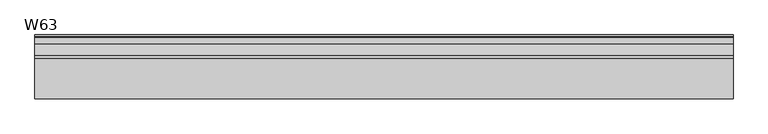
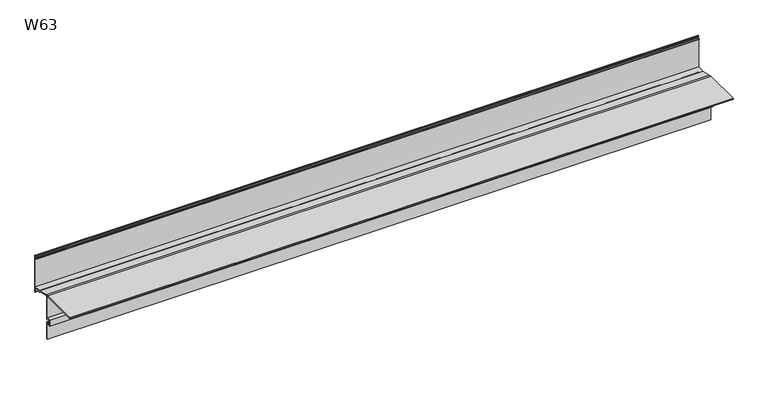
"""IFC4 building model written with IfcOpenShell, lengths in millimetres: proxy geometry, W63 Profil okapowy prosty : W63."""

from ifc_helpers import new_model, si_unit, point, frame, frame_2d, origin, place, context, project, spatial, polyline, circle_curve, trimmed, segment, composite_curve, outline, extrude, source, transform, mapped, element, save


def w63_a49d55f0(model_context):
    return source(origin(), model_context, "Body", "SweptSolid", [
        extrude(outline(composite_curve([segment(polyline([(12.814071, -0.610591), (36.5, -6.6014734), (52.2, -6.6014734), (52.2, 55.7983042), (49.5, 55.7983042), (49.5, 57.2983042), (52.5, 57.2983042), (52.5, 60.2083042)]), True, "CONTINUOUS"), segment(trimmed(circle_curve(frame_2d((51.5, 60.2083042)), 1.0), [point((52.5, 60.2083042))], [point((51.5, 61.2083042))], True, "CARTESIAN"), True, "CONTINUOUS"), segment(polyline([(51.5, 61.2083042), (51.5, 63.0441043)]), True, "CONTINUOUS"), segment(trimmed(circle_curve(frame_2d((51.0901385, 60.1628945)), 2.9102158), [point((51.5, 63.0441043))], [point((54.0, 60.2083042))], False, "CARTESIAN"), True, "CONTINUOUS"), segment(polyline([(54.0, 60.2083042), (54.0, -19.8427552), (52.5, -18.605576), (52.5, -8.4014734), (38.5, -8.4014734), (38.5, -10.7671837), (37.3, -9.6220163), (37.3, -8.4014734), (35.8680749, -8.4014734), (10.4, -1.9598328), (10.4, -53.5), (8.2, -53.5), (8.2, -51.1), (1.7, -51.1), (1.7, -60.9), (8.2, -60.9), (8.2, -58.5), (10.4, -58.5), (10.4, -96.8), (8.7, -96.8), (8.7, -62.7), (0.0, -62.7), (0.0, -49.3), (8.6, -49.3), (8.6, -1.8), (-72.7447545, -1.8), (-72.7447545, 0.0), (7.9099076, 0.0)]), True, "CONTINUOUS"), segment(trimmed(circle_curve(frame_2d((7.9099076, -20.0)), 20.0), [point((7.9099076, 0.0))], [point((12.814071, -0.610591))], False, "CARTESIAN"), True, "CONTINUOUS")], self_intersect=False)), frame((0.0, 0.0, 0.0), z_axis=(1.0, 0.0, 0.0), x_axis=(0.0, 1.0, 0.0)), (0.0, 0.0, 1.0), 1383.9179663),
    ])


if __name__ == "__main__":
    model = new_model("IFC4")
    model_context = context("Model", 3, world=origin())
    ifc_project = project(units=[si_unit("LENGTHUNIT", "METRE", prefix="MILLI")], contexts=[model_context])
    site = spatial("IfcSite", under=ifc_project)
    building = spatial("IfcBuilding", under=site)
    placement = place(None, origin())
    w63_shape = w63_a49d55f0(model_context)
    element("IfcBuildingElementProxy", 1, Name="W63 Profil okapowy prosty : W63", ObjectType="W63 Profil okapowy prosty : W63", at=placement, inside=building, context=model_context, shape_type="MappedRepresentation", body=[
        mapped(w63_shape, transform((0.0, 0.0, 0.0), x_axis=(1.0, 0.0, 0.0), y_axis=(0.0, 1.0, 0.0), z_axis=(0.0, 0.0, 1.0))),
    ])
    save(model, "model.ifc")
